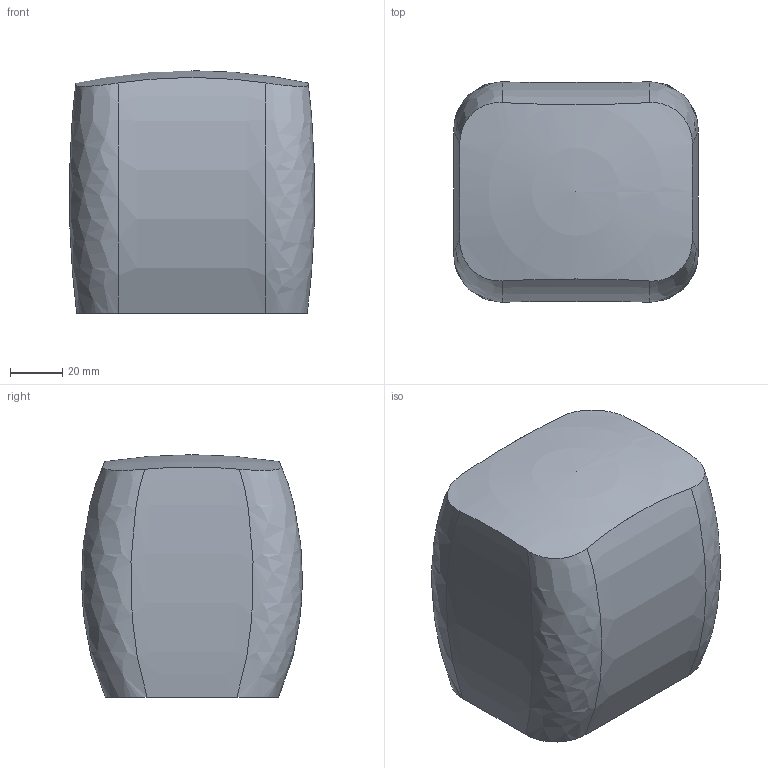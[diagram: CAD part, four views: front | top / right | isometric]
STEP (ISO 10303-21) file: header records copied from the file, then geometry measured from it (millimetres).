
FILE_DESCRIPTION(('Open CASCADE Model'),'2;1');
FILE_NAME('Open CASCADE Shape Model','2026-10-18T12:27:27',('Author'),( 'Open CASCADE'),'Open CASCADE STEP processor 8.0','Open CASCADE 8.0' ,'Unknown');
FILE_SCHEMA(('AUTOMOTIVE_DESIGN { 1 0 10303 214 1 1 1 1 }'));
Length unit declared in the file: millimetre
Products named in the file (1): Open CASCADE STEP translator 8.0 2
Bounding box: 93.88 x 84.59 x 92.95 mm (x, y, z)
Volume: 634188.3 mm3; surface area: 39535.6 mm2
Topology: 1 solids, 1 shells, 10 faces, 27 edges, 18 vertices
Faces by surface type: bspline 8, sphere 1, plane 1
Entity records: 2408 total; most frequent: CARTESIAN_POINT 2002, ORIENTED_EDGE 52, PCURVE 52, DEFINITIONAL_REPRESENTATION 52, B_SPLINE_CURVE_WITH_KNOTS 43, DIRECTION 34, EDGE_CURVE 26, LINE 26
